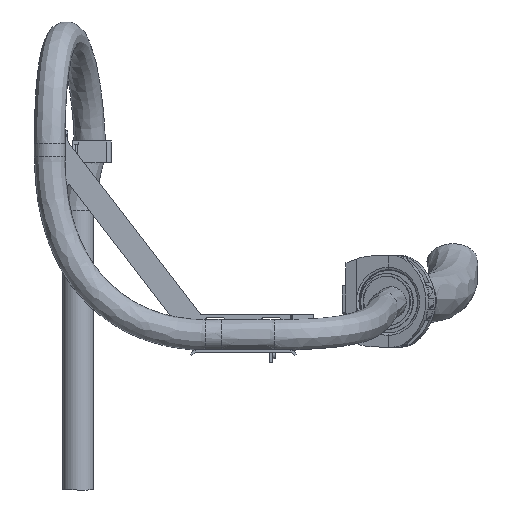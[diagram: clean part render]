
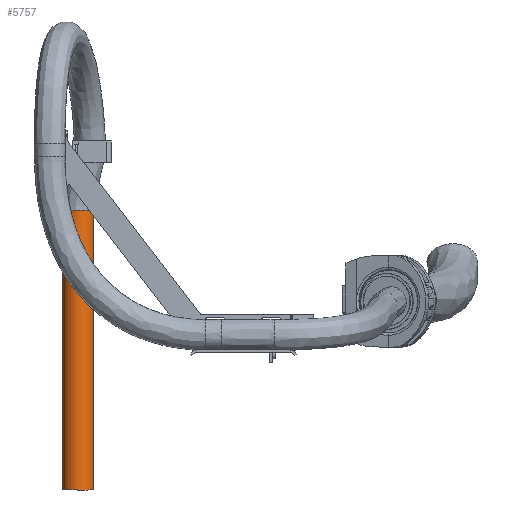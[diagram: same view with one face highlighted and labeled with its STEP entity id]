
A CAD part, left-side view. The second image highlights one B-rep face of the part: STEP entity #5757.
In plain terms, the highlighted cylindrical face has radius 25 mm (diameter 50 mm), a full revolution.
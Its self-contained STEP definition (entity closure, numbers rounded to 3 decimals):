
#434 = EDGE_LOOP ( 'NONE', ( #2648 ) ) ;
#959 = CYLINDRICAL_SURFACE ( 'NONE', #11484, 25. ) ;
#1579 = VERTEX_POINT ( 'NONE', #2994 ) ;
#1665 = CARTESIAN_POINT ( 'NONE',  ( 20.407, 2.902, 630.491 ) ) ;
#2294 = FACE_OUTER_BOUND ( 'NONE', #434, .T. ) ;
#2442 = EDGE_LOOP ( 'NONE', ( #15086 ) ) ;
#2648 = ORIENTED_EDGE ( 'NONE', *, *, #12853, .F. ) ;
#2994 = CARTESIAN_POINT ( 'NONE',  ( 20.407, 2.902, 180.491 ) ) ;
#3533 = DIRECTION ( 'NONE',  ( 0., 0., 1. ) ) ;
#3718 = DIRECTION ( 'NONE',  ( 0., -1., 0. ) ) ;
#3806 = DIRECTION ( 'NONE',  ( 0., 0., -1. ) ) ;
#5376 = AXIS2_PLACEMENT_3D ( 'NONE', #12334, #5632, #9948 ) ;
#5632 = DIRECTION ( 'NONE',  ( 0., 0., -1. ) ) ;
#5757 = ADVANCED_FACE ( 'NONE', ( #10226, #2294 ), #959, .T. ) ;
#7594 = AXIS2_PLACEMENT_3D ( 'NONE', #10666, #3806, #14566 ) ;
#7670 = VERTEX_POINT ( 'NONE', #1665 ) ;
#9313 = CIRCLE ( 'NONE', #5376, 25. ) ;
#9349 = EDGE_CURVE ( 'NONE', #7670, #7670, #13231, .T. ) ;
#9948 = DIRECTION ( 'NONE',  ( -0.148, -0.989, 0. ) ) ;
#10226 = FACE_OUTER_BOUND ( 'NONE', #2442, .T. ) ;
#10666 = CARTESIAN_POINT ( 'NONE',  ( 24.098, 27.628, 630.491 ) ) ;
#11484 = AXIS2_PLACEMENT_3D ( 'NONE', #15621, #3533, #3718 ) ;
#12334 = CARTESIAN_POINT ( 'NONE',  ( 24.098, 27.628, 180.491 ) ) ;
#12853 = EDGE_CURVE ( 'NONE', #1579, #1579, #9313, .T. ) ;
#13231 = CIRCLE ( 'NONE', #7594, 25. ) ;
#14566 = DIRECTION ( 'NONE',  ( -0.148, -0.989, 0. ) ) ;
#15086 = ORIENTED_EDGE ( 'NONE', *, *, #9349, .T. ) ;
#15621 = CARTESIAN_POINT ( 'NONE',  ( 24.098, 27.628, 180.491 ) ) ;
